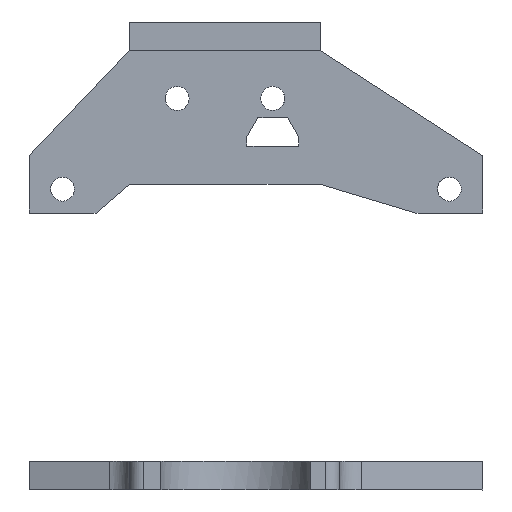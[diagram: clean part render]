
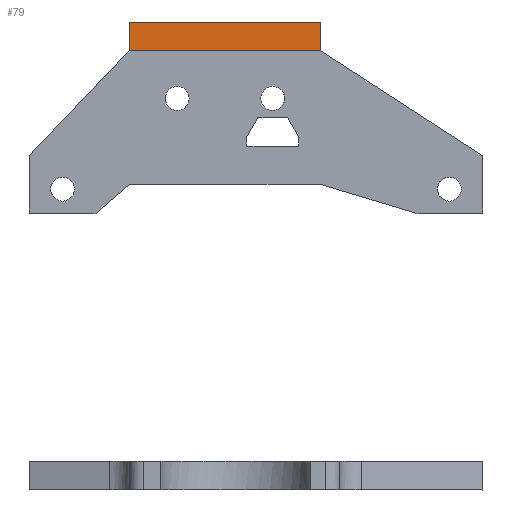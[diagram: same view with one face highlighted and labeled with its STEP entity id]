
A CAD part, front view. The second image highlights one B-rep face of the part: STEP entity #79.
In plain terms, the highlighted free-form (B-spline) face has degree [2, 1] with [3, 2] control points.
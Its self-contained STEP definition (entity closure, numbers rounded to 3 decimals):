
#79=ADVANCED_FACE('',(#160),#3009,.T.);
#160=FACE_OUTER_BOUND('',#241,.T.);
#241=EDGE_LOOP('',(#361,#362,#363,#364));
#361=ORIENTED_EDGE('',*,*,#2365,.T.);
#362=ORIENTED_EDGE('',*,*,#2366,.T.);
#363=ORIENTED_EDGE('',*,*,#2367,.T.);
#364=ORIENTED_EDGE('',*,*,#2363,.F.);
#808=PCURVE('',#3008,#1258);
#811=PCURVE('',#3009,#1261);
#812=PCURVE('',#3009,#1262);
#813=PCURVE('',#3009,#1263);
#814=PCURVE('',#3009,#1264);
#818=PCURVE('',#3010,#1268);
#841=PCURVE('',#2974,#1291);
#856=PCURVE('',#2975,#1306);
#1258=DEFINITIONAL_REPRESENTATION('',(#1708),#5744);
#1261=DEFINITIONAL_REPRESENTATION('',(#1711),#5744);
#1262=DEFINITIONAL_REPRESENTATION('',(#1712),#5744);
#1263=DEFINITIONAL_REPRESENTATION('',(#1713),#5744);
#1264=DEFINITIONAL_REPRESENTATION('',(#1714),#5744);
#1268=DEFINITIONAL_REPRESENTATION('',(#1718),#5744);
#1291=DEFINITIONAL_REPRESENTATION('',(#2616),#5744);
#1306=DEFINITIONAL_REPRESENTATION('',(#2635),#5744);
#1708=B_SPLINE_CURVE_WITH_KNOTS('',1,(#3396,#3397),.UNSPECIFIED.,.F.,.F.,
(2,2),(0.,6.),.UNSPECIFIED.);
#1711=B_SPLINE_CURVE_WITH_KNOTS('',1,(#3408,#3409),.UNSPECIFIED.,.F.,.F.,
(2,2),(243.54,283.54),.UNSPECIFIED.);
#1712=B_SPLINE_CURVE_WITH_KNOTS('',1,(#3412,#3413),.UNSPECIFIED.,.F.,.F.,
(2,2),(0.,6.),.UNSPECIFIED.);
#1713=B_SPLINE_CURVE_WITH_KNOTS('',1,(#3417,#3418),.UNSPECIFIED.,.F.,.F.,
(2,2),(-283.54,-243.54),.UNSPECIFIED.);
#1714=B_SPLINE_CURVE_WITH_KNOTS('',1,(#3419,#3420),.UNSPECIFIED.,.F.,.F.,
(2,2),(0.,6.),.UNSPECIFIED.);
#1718=B_SPLINE_CURVE_WITH_KNOTS('',1,(#3435,#3436),.UNSPECIFIED.,.F.,.F.,
(2,2),(0.,6.),.UNSPECIFIED.);
#2138=SURFACE_CURVE('',#2588,(#808,#814),.PCURVE_S1.);
#2140=SURFACE_CURVE('',#2590,(#811,#841),.PCURVE_S1.);
#2141=SURFACE_CURVE('',#2591,(#812,#818),.PCURVE_S1.);
#2142=SURFACE_CURVE('',#2592,(#813,#856),.PCURVE_S1.);
#2363=EDGE_CURVE('',#2830,#2831,#2138,.T.);
#2365=EDGE_CURVE('',#2830,#2832,#2140,.T.);
#2366=EDGE_CURVE('',#2832,#2833,#2141,.T.);
#2367=EDGE_CURVE('',#2833,#2831,#2142,.T.);
#2588=(
BOUNDED_CURVE()
B_SPLINE_CURVE(1,(#3394,#3395),.UNSPECIFIED.,.F.,.F.)
B_SPLINE_CURVE_WITH_KNOTS((2,2),(0.,6.),.UNSPECIFIED.)
CURVE()
GEOMETRIC_REPRESENTATION_ITEM()
RATIONAL_B_SPLINE_CURVE((1.,1.))
REPRESENTATION_ITEM('')
);
#2590=(
BOUNDED_CURVE()
B_SPLINE_CURVE(2,(#3405,#3406,#3407),.UNSPECIFIED.,.F.,.F.)
B_SPLINE_CURVE_WITH_KNOTS((3,3),(243.54,283.54),
 .UNSPECIFIED.)
CURVE()
GEOMETRIC_REPRESENTATION_ITEM()
RATIONAL_B_SPLINE_CURVE((1.,1.,1.))
REPRESENTATION_ITEM('')
);
#2591=(
BOUNDED_CURVE()
B_SPLINE_CURVE(1,(#3410,#3411),.UNSPECIFIED.,.F.,.F.)
B_SPLINE_CURVE_WITH_KNOTS((2,2),(0.,6.),.UNSPECIFIED.)
CURVE()
GEOMETRIC_REPRESENTATION_ITEM()
RATIONAL_B_SPLINE_CURVE((1.,1.))
REPRESENTATION_ITEM('')
);
#2592=(
BOUNDED_CURVE()
B_SPLINE_CURVE(2,(#3414,#3415,#3416),.UNSPECIFIED.,.F.,.F.)
B_SPLINE_CURVE_WITH_KNOTS((3,3),(-283.54,-243.54),
 .UNSPECIFIED.)
CURVE()
GEOMETRIC_REPRESENTATION_ITEM()
RATIONAL_B_SPLINE_CURVE((1.,1.,1.))
REPRESENTATION_ITEM('')
);
#2616=(
BOUNDED_CURVE()
B_SPLINE_CURVE(2,(#3545,#3546,#3547),.UNSPECIFIED.,.F.,.F.)
B_SPLINE_CURVE_WITH_KNOTS((3,3),(243.54,283.54),
 .UNSPECIFIED.)
CURVE()
GEOMETRIC_REPRESENTATION_ITEM()
RATIONAL_B_SPLINE_CURVE((1.,1.,1.))
REPRESENTATION_ITEM('')
);
#2635=(
BOUNDED_CURVE()
B_SPLINE_CURVE(2,(#3626,#3627,#3628),.UNSPECIFIED.,.F.,.F.)
B_SPLINE_CURVE_WITH_KNOTS((3,3),(-283.54,-243.54),
 .UNSPECIFIED.)
CURVE()
GEOMETRIC_REPRESENTATION_ITEM()
RATIONAL_B_SPLINE_CURVE((1.,1.,1.))
REPRESENTATION_ITEM('')
);
#2830=VERTEX_POINT('',#3333);
#2831=VERTEX_POINT('',#3334);
#2832=VERTEX_POINT('',#3335);
#2833=VERTEX_POINT('',#3336);
#2974=PLANE('',#3075);
#2975=PLANE('',#3076);
#3008=(
BOUNDED_SURFACE()
B_SPLINE_SURFACE(2,1,((#3157,#3158),(#3159,#3160),(#3161,#3162)),
 .UNSPECIFIED.,.F.,.F.,.F.)
B_SPLINE_SURFACE_WITH_KNOTS((3,3),(2,2),(224.712,243.54),
(0.,6.),.UNSPECIFIED.)
GEOMETRIC_REPRESENTATION_ITEM()
RATIONAL_B_SPLINE_SURFACE(((1.,1.),(1.,1.),(1.,1.)))
REPRESENTATION_ITEM('')
SURFACE()
);
#3009=(
BOUNDED_SURFACE()
B_SPLINE_SURFACE(2,1,((#3163,#3164),(#3165,#3166),(#3167,#3168)),
 .UNSPECIFIED.,.F.,.F.,.F.)
B_SPLINE_SURFACE_WITH_KNOTS((3,3),(2,2),(243.54,283.54),
(0.,6.),.UNSPECIFIED.)
GEOMETRIC_REPRESENTATION_ITEM()
RATIONAL_B_SPLINE_SURFACE(((1.,1.),(1.,1.),(1.,1.)))
REPRESENTATION_ITEM('')
SURFACE()
);
#3010=(
BOUNDED_SURFACE()
B_SPLINE_SURFACE(2,1,((#3169,#3170),(#3171,#3172),(#3173,#3174)),
 .UNSPECIFIED.,.F.,.F.,.F.)
B_SPLINE_SURFACE_WITH_KNOTS((3,3),(2,2),(283.54,302.368),
(0.,6.),.UNSPECIFIED.)
GEOMETRIC_REPRESENTATION_ITEM()
RATIONAL_B_SPLINE_SURFACE(((1.,1.),(1.,1.),(1.,1.)))
REPRESENTATION_ITEM('')
SURFACE()
);
#3075=AXIS2_PLACEMENT_3D('',#3253,#3110,$);
#3076=AXIS2_PLACEMENT_3D('',#3254,#3111,$);
#3110=DIRECTION('',(0.,0.,-1.));
#3111=DIRECTION('',(0.,0.,1.));
#3157=CARTESIAN_POINT('',(-490.,99.,60.));
#3158=CARTESIAN_POINT('',(-490.,99.,66.));
#3159=CARTESIAN_POINT('',(-490.,86.,60.));
#3160=CARTESIAN_POINT('',(-490.,86.,66.));
#3161=CARTESIAN_POINT('',(-490.,73.,60.));
#3162=CARTESIAN_POINT('',(-490.,73.,66.));
#3163=CARTESIAN_POINT('',(-490.,73.,60.));
#3164=CARTESIAN_POINT('',(-490.,73.,66.));
#3165=CARTESIAN_POINT('',(-470.,73.,60.));
#3166=CARTESIAN_POINT('',(-470.,73.,66.));
#3167=CARTESIAN_POINT('',(-450.,73.,60.));
#3168=CARTESIAN_POINT('',(-450.,73.,66.));
#3169=CARTESIAN_POINT('',(-450.,73.,60.));
#3170=CARTESIAN_POINT('',(-450.,73.,66.));
#3171=CARTESIAN_POINT('',(-450.,86.,60.));
#3172=CARTESIAN_POINT('',(-450.,86.,66.));
#3173=CARTESIAN_POINT('',(-450.,99.,60.));
#3174=CARTESIAN_POINT('',(-450.,99.,66.));
#3253=CARTESIAN_POINT('',(-495.,69.375,60.));
#3254=CARTESIAN_POINT('',(-495.,69.375,66.));
#3333=CARTESIAN_POINT('',(-490.,73.,60.));
#3334=CARTESIAN_POINT('',(-490.,73.,66.));
#3335=CARTESIAN_POINT('',(-450.,73.,60.));
#3336=CARTESIAN_POINT('',(-450.,73.,66.));
#3394=CARTESIAN_POINT('',(-490.,73.,60.));
#3395=CARTESIAN_POINT('',(-490.,73.,66.));
#3396=CARTESIAN_POINT('',(243.54,0.));
#3397=CARTESIAN_POINT('',(243.54,6.));
#3405=CARTESIAN_POINT('',(-490.,73.,60.));
#3406=CARTESIAN_POINT('',(-470.,73.,60.));
#3407=CARTESIAN_POINT('',(-450.,73.,60.));
#3408=CARTESIAN_POINT('',(243.54,0.));
#3409=CARTESIAN_POINT('',(283.54,0.));
#3410=CARTESIAN_POINT('',(-450.,73.,60.));
#3411=CARTESIAN_POINT('',(-450.,73.,66.));
#3412=CARTESIAN_POINT('',(283.54,0.));
#3413=CARTESIAN_POINT('',(283.54,6.));
#3414=CARTESIAN_POINT('',(-450.,73.,66.));
#3415=CARTESIAN_POINT('',(-470.,73.,66.));
#3416=CARTESIAN_POINT('',(-490.,73.,66.));
#3417=CARTESIAN_POINT('',(283.54,6.));
#3418=CARTESIAN_POINT('',(243.54,6.));
#3419=CARTESIAN_POINT('',(243.54,0.));
#3420=CARTESIAN_POINT('',(243.54,6.));
#3435=CARTESIAN_POINT('',(283.54,0.));
#3436=CARTESIAN_POINT('',(283.54,6.));
#3545=CARTESIAN_POINT('',(-29.,-37.));
#3546=CARTESIAN_POINT('',(-29.,-17.));
#3547=CARTESIAN_POINT('',(-29.,3.));
#3626=CARTESIAN_POINT('',(3.,-29.));
#3627=CARTESIAN_POINT('',(-17.,-29.));
#3628=CARTESIAN_POINT('',(-37.,-29.));
#5744=(
GEOMETRIC_REPRESENTATION_CONTEXT(2)
PARAMETRIC_REPRESENTATION_CONTEXT()
REPRESENTATION_CONTEXT('pspace','')
);
